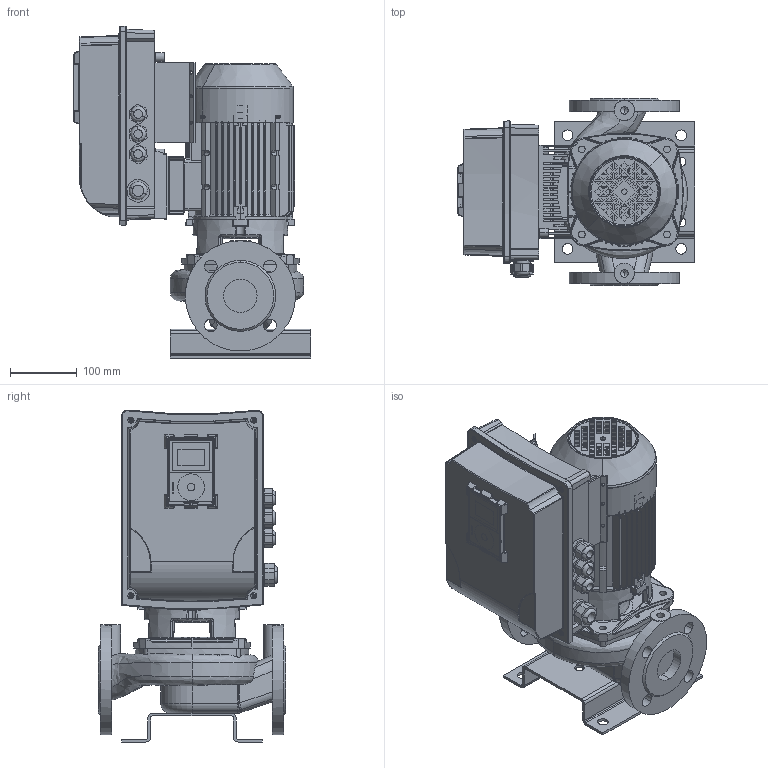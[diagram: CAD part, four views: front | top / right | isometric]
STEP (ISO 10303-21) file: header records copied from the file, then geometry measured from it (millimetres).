
FILE_DESCRIPTION(('STEP AP214'),'1');
FILE_NAME('export.stp','2018-06-01T13:49:35',(' '),(' '),'Spatial InterOp 3D',' ',' ');
FILE_SCHEMA(('AUTOMOTIVE_DESIGN { 1 0 10303 214 1 1 1 1 }'));
Length unit declared in the file: millimetre
Products named in the file (27): W_L50A4900_KPVS; V_TLL50ABC; V_PPL50ABC; V_JALKA35973; Vacon_MS2; G43699; Vacon20CP_MS2; MS2_bottom_final; P101407; MS2_cover_final; Vacon_Display; CAD-3D-VACON-M100-Display.sldasm; Vacon_display_pla; Vacon_display_scr; DIN_966-M5x10; M20_tiivisteholkk; M25_tiivisteholkk; V_MKP-80-F15_VS; SOVITUSPALA; 160031; 160001; V_MKP-80-2_F15; 160141; 160137; 160039___; 160040___; 160133
Assembly tree (31 placements, depth 6):
  W_L50A4900_KPVS
    V_TLL50ABC
    V_PPL50ABC
    V_JALKA35973
    V_MKP-80-F15_VS
      Vacon_MS2
        G43699
        Vacon20CP_MS2
          MS2_bottom_final
          P101407
          MS2_cover_final
          Vacon_Display
            CAD-3D-VACON-M100-Display.sldasm
            Vacon_display_pla
            Vacon_display_scr
          DIN_966-M5x10  x4
          M20_tiivisteholkk  x3
          M25_tiivisteholkk
      SOVITUSPALA
      V_MKP-80-2_F15
        160031
          160001
        160141
          160137
        160039___
        160040___
        160133
Bounding box: 354.81 x 280 x 496.9 mm (x, y, z)
Volume: 5487809.9 mm3; surface area: 1758239.3 mm2
Topology: 23 solids, 1496 shells, 5364 faces, 17935 edges, 14037 vertices
Faces by surface type: bspline 1888, plane 1368, cylinder 1235, torus 489, cone 278, sphere 106
Entity records: 250126 total; most frequent: CARTESIAN_POINT 106508, ORIENTED_EDGE 26938, DIRECTION 18383, EDGE_CURVE 17291, VERTEX_POINT 13719, B_SPLINE_CURVE_WITH_KNOTS 7897, AXIS2_PLACEMENT_3D 7155, EDGE_LOOP 5638
